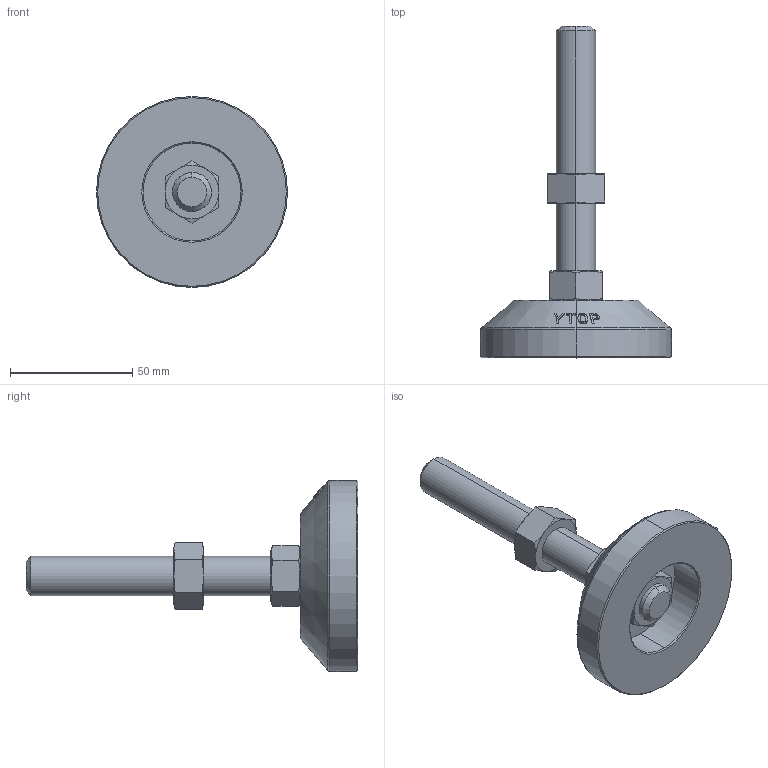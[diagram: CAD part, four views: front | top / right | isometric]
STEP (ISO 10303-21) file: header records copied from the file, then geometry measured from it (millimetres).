
FILE_DESCRIPTION (( 'STEP AP203' ), '1' );
FILE_NAME ('M-80-16100-S.STEP', '2020-09-10T07:00:11', ( '' ), ( '' ), 'SwSTEP 2.0', 'SolidWorks 2016', '' );
FILE_SCHEMA (( 'CONFIG_CONTROL_DESIGN' ));
Length unit declared in the file: millimetre
Products named in the file (5): 不锈钢双头螺杆M16系列_M16X100; 脚垫锁紧六角薄螺母M16; M-80-16100-S; 脚垫调节六角螺母M16; M-80-1褐菜 
Assembly tree (4 placements, depth 2):
  M-80-16100-S
    M-80-1褐菜 
    不锈钢双头螺杆M16系列_M16X100
    脚垫锁紧六角薄螺母M16
    脚垫调节六角螺母M16
Bounding box: 78 x 135.5 x 78 mm (x, y, z)
Volume: 109840.2 mm3; surface area: 26102.1 mm2
Topology: 4 solids, 4 shells, 143 faces, 326 edges, 200 vertices
Faces by surface type: cone 62, bspline 38, plane 29, cylinder 14
Entity records: 8411 total; most frequent: CARTESIAN_POINT 5074, ORIENTED_EDGE 652, DIRECTION 456, EDGE_CURVE 326, VERTEX_POINT 200, AXIS2_PLACEMENT_3D 196, B_SPLINE_CURVE_WITH_KNOTS 178, EDGE_LOOP 158
